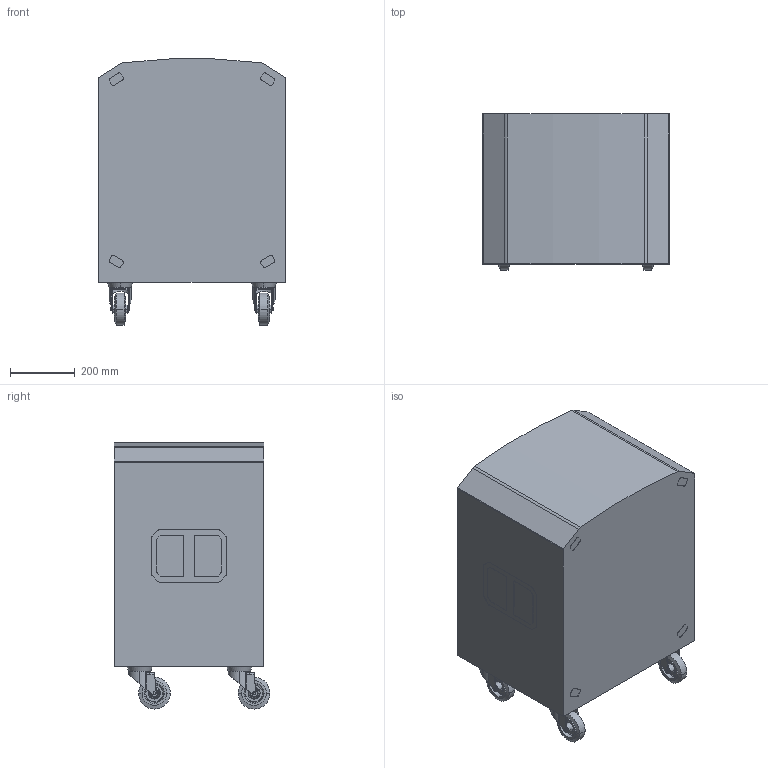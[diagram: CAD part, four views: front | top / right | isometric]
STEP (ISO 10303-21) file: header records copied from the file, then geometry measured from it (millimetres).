
FILE_DESCRIPTION (( 'STEP AP203' ), '1' );
FILE_NAME ('ETX 15SP_SIMPLIFIED.STEP', '2018-02-21T20:47:24', ( '' ), ( '' ), 'SwSTEP 2.0', 'SolidWorks 2016', '' );
FILE_SCHEMA (( 'CONFIG_CONTROL_DESIGN' ));
Length unit declared in the file: millimetre
Products named in the file (2): ETX 15SP_SIMPLIFIED
Bounding box: 575.87 x 482.43 x 823.4 mm (x, y, z)
Volume: 182566339.6 mm3; surface area: 2198478.9 mm2
Topology: 5 solids, 5 shells, 672 faces, 1810 edges, 1180 vertices
Faces by surface type: plane 243, cylinder 221, bspline 152, cone 56
Entity records: 26895 total; most frequent: CARTESIAN_POINT 10736, ORIENTED_EDGE 3612, DIRECTION 3108, EDGE_CURVE 1806, VERTEX_POINT 1180, AXIS2_PLACEMENT_3D 1128, LINE 852, VECTOR 852
